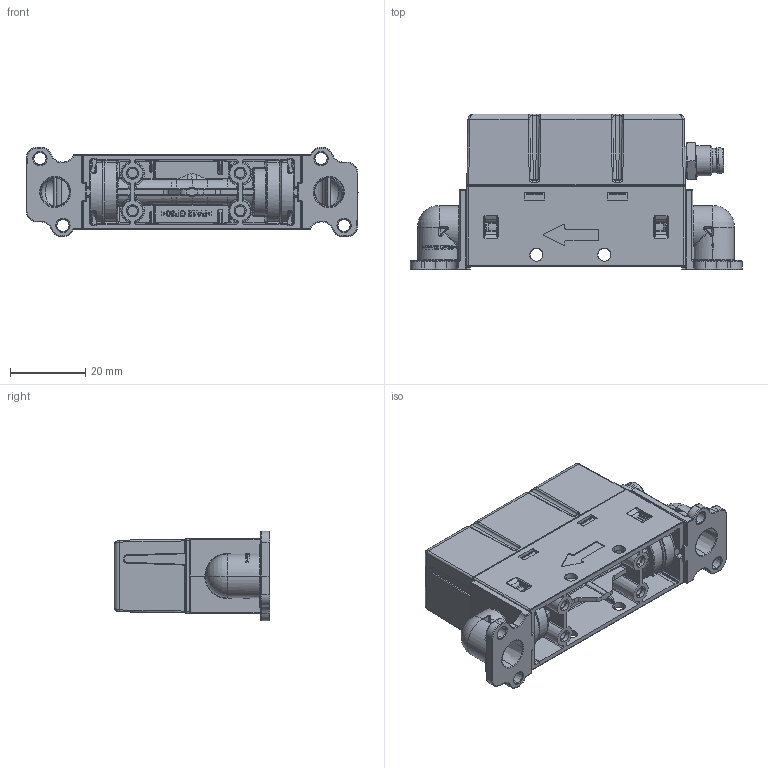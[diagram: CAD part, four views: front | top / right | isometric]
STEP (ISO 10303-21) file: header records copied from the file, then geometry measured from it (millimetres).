
FILE_DESCRIPTION (( 'STEP AP214' ), '1' );
FILE_NAME ('163708-00_Public Model SFM6000 Downmount.step', '2023-01-12T11:38:57', ( '' ), ( '' ), 'SwSTEP 2.0', 'SolidWorks 2021', '' );
FILE_SCHEMA (( 'AUTOMOTIVE_DESIGN' ));
Length unit declared in the file: millimetre
Products named in the file (1): 163708-00_Public Model SFM6000 Downmount
Bounding box: 88 x 41.3 x 23.7 mm (x, y, z)
Volume: 43701.1 mm3; surface area: 16935 mm2
Topology: 1 solids, 5 shells, 2278 faces, 5555 edges, 3262 vertices
Faces by surface type: bspline 700, cylinder 614, plane 540, sphere 207, cone 115, torus 102
Entity records: 115223 total; most frequent: CARTESIAN_POINT 43778, ORIENTED_EDGE 10916, DIRECTION 8226, EDGE_CURVE 5458, VERTEX_POINT 3260, AXIS2_PLACEMENT_3D 3138, EDGE_LOOP 2368, ADVANCED_FACE 2278
